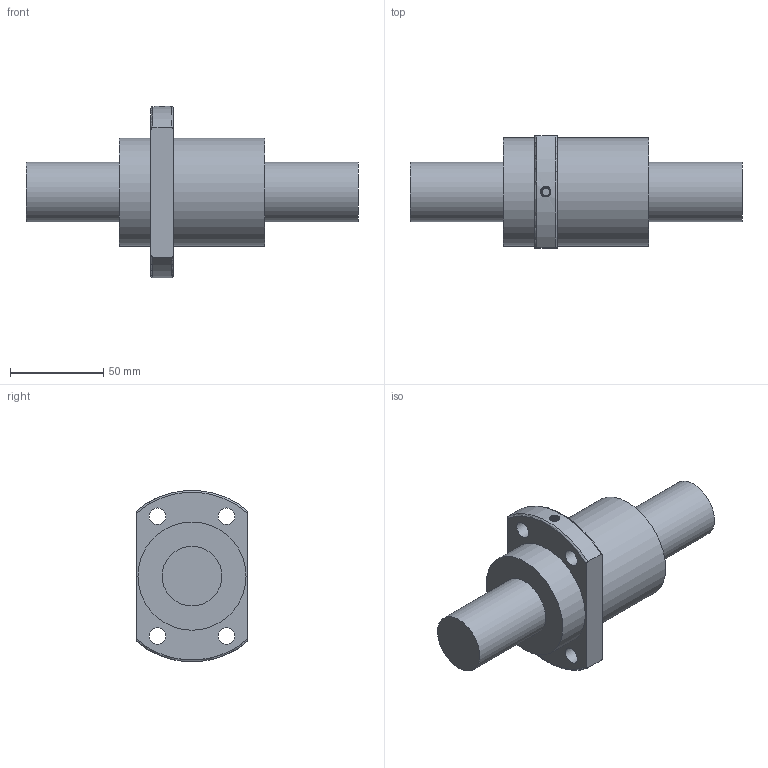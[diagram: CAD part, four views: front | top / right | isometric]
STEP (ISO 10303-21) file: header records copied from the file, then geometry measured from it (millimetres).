
FILE_DESCRIPTION(/* description */ ('Unknown','CAx-IF Rec.Pracs.---Representation and Presentation of Product Manufacturing Information (PMI)---4.0---2014-10-13','CAx-IF Rec.Pracs.---3D Tessellated Geometry---0.4---2014-09-14','2;1'),/* implementation_level */ '2;1');
FILE_NAME(/* name */ 'SFY3232-3.6',/* time_stamp */ '2020-12-06T18:17:55+08:00',/* author */ ('Unknown'),/* organization */ ('Unknown'),/* preprocessor_version */ 'ST-DEVELOPER v16.7',/* originating_system */ 'Solid Edge',/* authorisation */ 'Unknown');
FILE_SCHEMA (('AP242_MANAGED_MODEL_BASED_3D_ENGINEERING_MIM_LF { 1 0 10303 442 1 1 4 }'));
Length unit declared in the file: millimetre
Products named in the file (1): SFY3232-3
Bounding box: 178 x 60 x 91.86 mm (x, y, z)
Volume: 312435.9 mm3; surface area: 36734.1 mm2
Topology: 1 solids, 1 shells, 29 faces, 70 edges, 49 vertices
Faces by surface type: cylinder 13, plane 10, torus 4, bspline 2
Full cylindrical faces by diameter (mm): 4 x1, 9 x4, 32 x2, 58 x2
Entity records: 3159 total; most frequent: CARTESIAN_POINT 2485, DIRECTION 126, ORIENTED_EDGE 108, AXIS2_PLACEMENT_3D 60, EDGE_CURVE 54, EDGE_LOOP 52, FACE_BOUND 52, VERTEX_POINT 42
